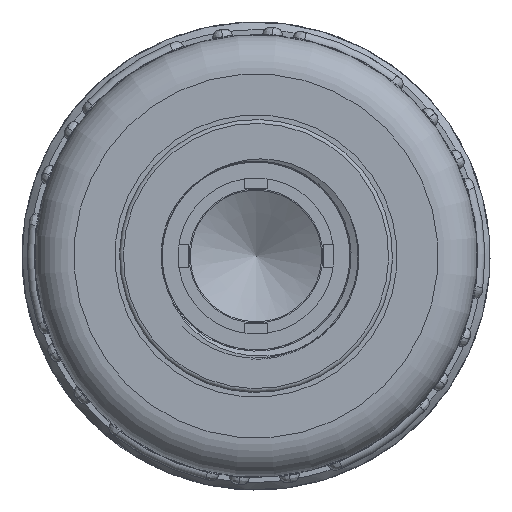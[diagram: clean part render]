
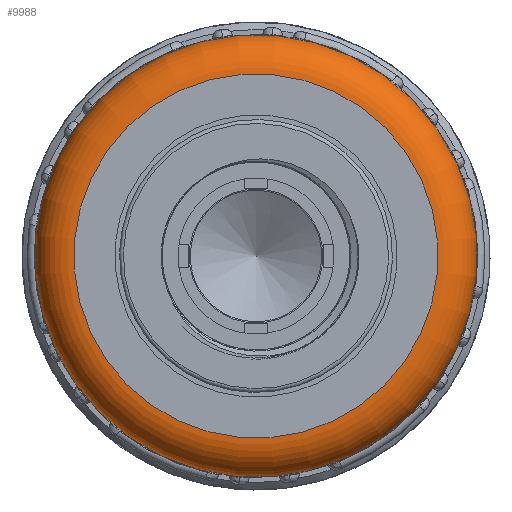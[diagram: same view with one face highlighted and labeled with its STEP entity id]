
A CAD part, front view. The second image highlights one B-rep face of the part: STEP entity #9988.
In plain terms, the highlighted toroidal (fillet/blend) face has major radius 23.35 mm and minor radius 5 mm.
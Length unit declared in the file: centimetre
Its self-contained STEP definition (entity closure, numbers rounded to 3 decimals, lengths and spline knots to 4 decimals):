
#272=FACE_BOUND('',#2746,.T.);
#332=TOROIDAL_SURFACE('',#10811,2.335,0.5);
#2119=FACE_OUTER_BOUND('',#2745,.T.);
#2745=EDGE_LOOP('',(#8181));
#2746=EDGE_LOOP('',(#8182));
#3291=CIRCLE('',#10809,2.335);
#3293=CIRCLE('',#10812,2.835);
#4434=VERTEX_POINT('',#67757);
#4436=VERTEX_POINT('',#67762);
#5752=EDGE_CURVE('',#4434,#4434,#3291,.T.);
#5754=EDGE_CURVE('',#4436,#4436,#3293,.T.);
#8181=ORIENTED_EDGE('',*,*,#5754,.F.);
#8182=ORIENTED_EDGE('',*,*,#5752,.T.);
#9988=ADVANCED_FACE('',(#2119,#272),#332,.T.);
#10809=AXIS2_PLACEMENT_3D('',#67758,#12827,#12828);
#10811=AXIS2_PLACEMENT_3D('',#67761,#12831,#12832);
#10812=AXIS2_PLACEMENT_3D('',#67763,#12833,#12834);
#12827=DIRECTION('center_axis',(0.,1.,0.));
#12828=DIRECTION('ref_axis',(-0.997,0.,-0.082));
#12831=DIRECTION('center_axis',(0.,1.,0.));
#12832=DIRECTION('ref_axis',(0.082,0.,-0.997));
#12833=DIRECTION('center_axis',(0.,1.,0.));
#12834=DIRECTION('ref_axis',(-0.997,0.,-0.082));
#67757=CARTESIAN_POINT('',(2.3271,-3.45,0.1372));
#67758=CARTESIAN_POINT('Origin',(0.,-3.45,-0.0551));
#67761=CARTESIAN_POINT('Origin',(0.,-2.95,-0.0551));
#67762=CARTESIAN_POINT('',(2.8254,-2.95,0.1784));
#67763=CARTESIAN_POINT('Origin',(0.,-2.95,-0.0551));
